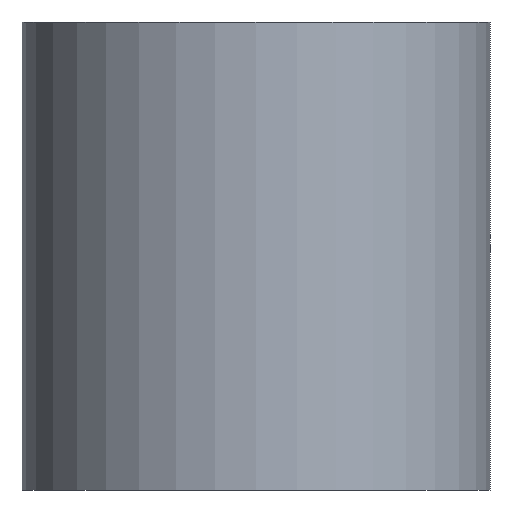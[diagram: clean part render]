
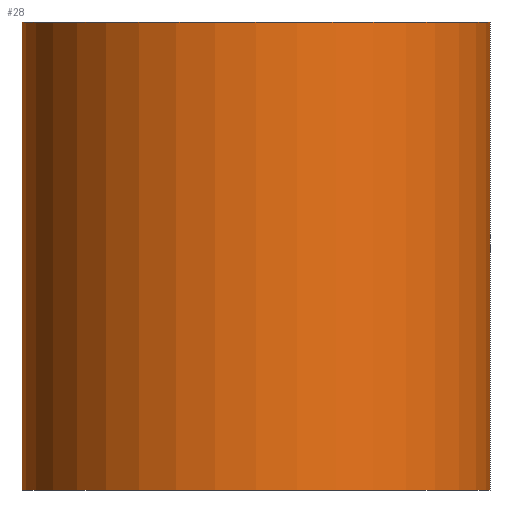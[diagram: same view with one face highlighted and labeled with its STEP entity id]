
A CAD part, front view. The second image highlights one B-rep face of the part: STEP entity #28.
In plain terms, the highlighted cylindrical face has radius 10 mm (diameter 20 mm), a full revolution.
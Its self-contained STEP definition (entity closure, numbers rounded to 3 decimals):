
#28 = ADVANCED_FACE( '', ( #53, #54 ), #55, .T. );
#53 = FACE_OUTER_BOUND( '', #76, .T. );
#54 = FACE_OUTER_BOUND( '', #77, .T. );
#55 = CYLINDRICAL_SURFACE( '', #78, 10. );
#76 = EDGE_LOOP( '', ( #93 ) );
#77 = EDGE_LOOP( '', ( #94 ) );
#78 = AXIS2_PLACEMENT_3D( '', #95, #96, #97 );
#93 = ORIENTED_EDGE( '', *, *, #117, .T. );
#94 = ORIENTED_EDGE( '', *, *, #118, .F. );
#95 = CARTESIAN_POINT( '', ( 0., 0., 20. ) );
#96 = DIRECTION( '', ( 0., 0., 1. ) );
#97 = DIRECTION( '', ( -1., 0., 0. ) );
#117 = EDGE_CURVE( '', #125, #125, #126, .T. );
#118 = EDGE_CURVE( '', #127, #127, #128, .T. );
#125 = VERTEX_POINT( '', #137 );
#126 = CIRCLE( '', #138, 10. );
#127 = VERTEX_POINT( '', #139 );
#128 = CIRCLE( '', #140, 10. );
#137 = CARTESIAN_POINT( '', ( 10., 0., 20. ) );
#138 = AXIS2_PLACEMENT_3D( '', #148, #149, #150 );
#139 = CARTESIAN_POINT( '', ( 10., 0., 0. ) );
#140 = AXIS2_PLACEMENT_3D( '', #151, #152, #153 );
#148 = CARTESIAN_POINT( '', ( 0., 0., 20. ) );
#149 = DIRECTION( '', ( 0., 0., -1. ) );
#150 = DIRECTION( '', ( 1., 0., 0. ) );
#151 = CARTESIAN_POINT( '', ( 0., 0., 0. ) );
#152 = DIRECTION( '', ( 0., 0., -1. ) );
#153 = DIRECTION( '', ( 1., 0., 0. ) );
